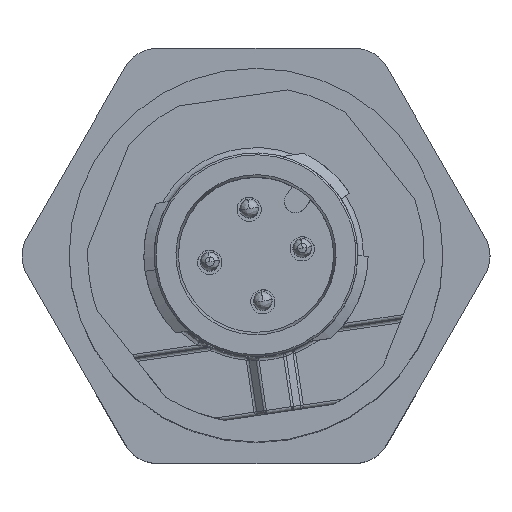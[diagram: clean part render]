
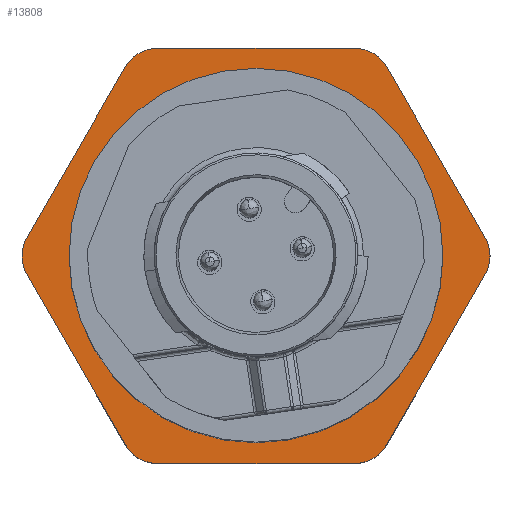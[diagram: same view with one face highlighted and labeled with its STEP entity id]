
A CAD part, top view. The second image highlights one B-rep face of the part: STEP entity #13808.
In plain terms, the highlighted planar face has unit normal (0, 0, 1).
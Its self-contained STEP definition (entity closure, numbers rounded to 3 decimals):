
#102 = EDGE_CURVE ( 'NONE', #706, #2347, #15973, .T. ) ;
#245 = LINE ( 'NONE', #5870, #1471 ) ;
#367 = CIRCLE ( 'NONE', #3452, 2. ) ;
#646 = VERTEX_POINT ( 'NONE', #9310 ) ;
#688 = ORIENTED_EDGE ( 'NONE', *, *, #8668, .T. ) ;
#706 = VERTEX_POINT ( 'NONE', #5307 ) ;
#777 = FACE_OUTER_BOUND ( 'NONE', #15439, .T. ) ;
#851 = ORIENTED_EDGE ( 'NONE', *, *, #3408, .F. ) ;
#871 = ORIENTED_EDGE ( 'NONE', *, *, #4243, .T. ) ;
#1186 = VERTEX_POINT ( 'NONE', #7806 ) ;
#1471 = VECTOR ( 'NONE', #3340, 1000. ) ;
#1588 = EDGE_CURVE ( 'NONE', #15198, #16648, #16622, .T. ) ;
#1591 = CARTESIAN_POINT ( 'NONE',  ( 5.26, 11.11, 93. ) ) ;
#1685 = ORIENTED_EDGE ( 'NONE', *, *, #3380, .T. ) ;
#1764 = CARTESIAN_POINT ( 'NONE',  ( -5.26, -11.11, 93. ) ) ;
#1838 = EDGE_CURVE ( 'NONE', #10801, #9705, #7152, .T. ) ;
#1964 = DIRECTION ( 'NONE',  ( -0.5, -0.866, 0. ) ) ;
#2113 = DIRECTION ( 'NONE',  ( 1., 0., 0. ) ) ;
#2134 = DIRECTION ( 'NONE',  ( 1., 0., 0. ) ) ;
#2196 = CARTESIAN_POINT ( 'NONE',  ( 6.414, -11.11, 93. ) ) ;
#2347 = VERTEX_POINT ( 'NONE', #1764 ) ;
#2362 = DIRECTION ( 'NONE',  ( 1., 0., 0. ) ) ;
#2417 = VERTEX_POINT ( 'NONE', #9879 ) ;
#2437 = CARTESIAN_POINT ( 'NONE',  ( -10., 0., 93. ) ) ;
#2469 = EDGE_CURVE ( 'NONE', #9705, #7438, #12090, .T. ) ;
#2501 = DIRECTION ( 'NONE',  ( 0., 0., 1. ) ) ;
#2974 = AXIS2_PLACEMENT_3D ( 'NONE', #4908, #11518, #16763 ) ;
#3066 = VECTOR ( 'NONE', #14283, 1000. ) ;
#3340 = DIRECTION ( 'NONE',  ( 1., 0., 0. ) ) ;
#3369 = EDGE_CURVE ( 'NONE', #13005, #4060, #15882, .T. ) ;
#3374 = CARTESIAN_POINT ( 'NONE',  ( -5.26, 9.11, 93. ) ) ;
#3380 = EDGE_CURVE ( 'NONE', #12445, #646, #5261, .T. ) ;
#3408 = EDGE_CURVE ( 'NONE', #4060, #13005, #14263, .T. ) ;
#3433 = CARTESIAN_POINT ( 'NONE',  ( -6.414, 11.11, 93. ) ) ;
#3452 = AXIS2_PLACEMENT_3D ( 'NONE', #3374, #9977, #2113 ) ;
#3599 = VERTEX_POINT ( 'NONE', #16353 ) ;
#3654 = CARTESIAN_POINT ( 'NONE',  ( 6.414, 11.11, 93. ) ) ;
#3873 = DIRECTION ( 'NONE',  ( -1., 0., 0. ) ) ;
#4060 = VERTEX_POINT ( 'NONE', #2437 ) ;
#4243 = EDGE_CURVE ( 'NONE', #16648, #1186, #13014, .T. ) ;
#4312 = ORIENTED_EDGE ( 'NONE', *, *, #13773, .T. ) ;
#4493 = CARTESIAN_POINT ( 'NONE',  ( -12.829, 0., 93. ) ) ;
#4536 = ORIENTED_EDGE ( 'NONE', *, *, #14504, .T. ) ;
#4908 = CARTESIAN_POINT ( 'NONE',  ( 10.519, 0., 93. ) ) ;
#5261 = LINE ( 'NONE', #2196, #7705 ) ;
#5307 = CARTESIAN_POINT ( 'NONE',  ( -6.992, -10.11, 93. ) ) ;
#5551 = CARTESIAN_POINT ( 'NONE',  ( -12.519, 0., 93. ) ) ;
#5870 = CARTESIAN_POINT ( 'NONE',  ( -6.414, -11.11, 93. ) ) ;
#5872 = CARTESIAN_POINT ( 'NONE',  ( -6.992, 10.11, 93. ) ) ;
#6145 = AXIS2_PLACEMENT_3D ( 'NONE', #16497, #13914, #10226 ) ;
#6267 = CARTESIAN_POINT ( 'NONE',  ( -5.26, -9.11, 93. ) ) ;
#6565 = AXIS2_PLACEMENT_3D ( 'NONE', #11972, #11801, #12032 ) ;
#6583 = EDGE_LOOP ( 'NONE', ( #8349, #851 ) ) ;
#6585 = ORIENTED_EDGE ( 'NONE', *, *, #11936, .T. ) ;
#6663 = CIRCLE ( 'NONE', #6565, 2. ) ;
#6786 = CARTESIAN_POINT ( 'NONE',  ( 12.251, 1., 93. ) ) ;
#6854 = VECTOR ( 'NONE', #3873, 1000. ) ;
#6979 = VERTEX_POINT ( 'NONE', #6786 ) ;
#7069 = DIRECTION ( 'NONE',  ( 0.5, -0.866, 0. ) ) ;
#7152 = LINE ( 'NONE', #3433, #9232 ) ;
#7438 = VERTEX_POINT ( 'NONE', #5551 ) ;
#7705 = VECTOR ( 'NONE', #12694, 1000. ) ;
#7719 = DIRECTION ( 'NONE',  ( 1., 0., 0. ) ) ;
#7806 = CARTESIAN_POINT ( 'NONE',  ( -5.26, 11.11, 93. ) ) ;
#7962 = AXIS2_PLACEMENT_3D ( 'NONE', #9253, #2501, #11691 ) ;
#8245 = ORIENTED_EDGE ( 'NONE', *, *, #16037, .T. ) ;
#8349 = ORIENTED_EDGE ( 'NONE', *, *, #3369, .F. ) ;
#8590 = CARTESIAN_POINT ( 'NONE',  ( 6.992, 10.11, 93. ) ) ;
#8668 = EDGE_CURVE ( 'NONE', #2417, #12445, #6663, .T. ) ;
#8795 = CARTESIAN_POINT ( 'NONE',  ( 10., 0., 93. ) ) ;
#8878 = DIRECTION ( 'NONE',  ( 0., 0., 1. ) ) ;
#8899 = CARTESIAN_POINT ( 'NONE',  ( 5.26, 9.11, 93. ) ) ;
#9017 = DIRECTION ( 'NONE',  ( 0., 0., 1. ) ) ;
#9232 = VECTOR ( 'NONE', #1964, 1000. ) ;
#9253 = CARTESIAN_POINT ( 'NONE',  ( -10.519, 0., 93. ) ) ;
#9310 = CARTESIAN_POINT ( 'NONE',  ( 12.251, -1., 93. ) ) ;
#9421 = VECTOR ( 'NONE', #7069, 1000. ) ;
#9705 = VERTEX_POINT ( 'NONE', #10700 ) ;
#9793 = ORIENTED_EDGE ( 'NONE', *, *, #2469, .T. ) ;
#9879 = CARTESIAN_POINT ( 'NONE',  ( 5.26, -11.11, 93. ) ) ;
#9977 = DIRECTION ( 'NONE',  ( 0., 0., 1. ) ) ;
#10063 = CARTESIAN_POINT ( 'NONE',  ( 6.992, -10.11, 93. ) ) ;
#10143 = AXIS2_PLACEMENT_3D ( 'NONE', #11482, #8878, #2362 ) ;
#10226 = DIRECTION ( 'NONE',  ( 1., 0., 0. ) ) ;
#10308 = DIRECTION ( 'NONE',  ( 1., 0., 0. ) ) ;
#10700 = CARTESIAN_POINT ( 'NONE',  ( -12.251, 1., 93. ) ) ;
#10801 = VERTEX_POINT ( 'NONE', #5872 ) ;
#10935 = ORIENTED_EDGE ( 'NONE', *, *, #1838, .T. ) ;
#11153 = ORIENTED_EDGE ( 'NONE', *, *, #12833, .T. ) ;
#11482 = CARTESIAN_POINT ( 'NONE',  ( 0., 0., 93. ) ) ;
#11518 = DIRECTION ( 'NONE',  ( 0., 0., 1. ) ) ;
#11526 = DIRECTION ( 'NONE',  ( 0., 0., 1. ) ) ;
#11683 = DIRECTION ( 'NONE',  ( 0., 0., 1. ) ) ;
#11691 = DIRECTION ( 'NONE',  ( 1., 0., 0. ) ) ;
#11801 = DIRECTION ( 'NONE',  ( 0., 0., 1. ) ) ;
#11936 = EDGE_CURVE ( 'NONE', #646, #6979, #12955, .T. ) ;
#11972 = CARTESIAN_POINT ( 'NONE',  ( 5.26, -9.11, 93. ) ) ;
#12032 = DIRECTION ( 'NONE',  ( 1., 0., 0. ) ) ;
#12090 = CIRCLE ( 'NONE', #14780, 2. ) ;
#12104 = LINE ( 'NONE', #15474, #3066 ) ;
#12172 = EDGE_CURVE ( 'NONE', #2347, #2417, #245, .T. ) ;
#12445 = VERTEX_POINT ( 'NONE', #10063 ) ;
#12449 = PLANE ( 'NONE',  #16270 ) ;
#12510 = CARTESIAN_POINT ( 'NONE',  ( 0., 0., 93. ) ) ;
#12694 = DIRECTION ( 'NONE',  ( 0.5, 0.866, 0. ) ) ;
#12833 = EDGE_CURVE ( 'NONE', #3599, #706, #13102, .T. ) ;
#12955 = CIRCLE ( 'NONE', #2974, 2. ) ;
#13005 = VERTEX_POINT ( 'NONE', #8795 ) ;
#13014 = LINE ( 'NONE', #3654, #6854 ) ;
#13041 = CIRCLE ( 'NONE', #7962, 2. ) ;
#13102 = LINE ( 'NONE', #4493, #9421 ) ;
#13660 = FACE_BOUND ( 'NONE', #6583, .T. ) ;
#13773 = EDGE_CURVE ( 'NONE', #1186, #10801, #367, .T. ) ;
#13808 = ADVANCED_FACE ( 'NONE', ( #13660, #777 ), #12449, .T. ) ;
#13914 = DIRECTION ( 'NONE',  ( 0., 0., 1. ) ) ;
#13988 = ORIENTED_EDGE ( 'NONE', *, *, #1588, .T. ) ;
#14222 = ORIENTED_EDGE ( 'NONE', *, *, #12172, .T. ) ;
#14263 = CIRCLE ( 'NONE', #10143, 10. ) ;
#14283 = DIRECTION ( 'NONE',  ( -0.5, 0.866, 0. ) ) ;
#14504 = EDGE_CURVE ( 'NONE', #6979, #15198, #12104, .T. ) ;
#14780 = AXIS2_PLACEMENT_3D ( 'NONE', #15281, #15221, #2134 ) ;
#14986 = AXIS2_PLACEMENT_3D ( 'NONE', #8899, #9017, #10308 ) ;
#15198 = VERTEX_POINT ( 'NONE', #8590 ) ;
#15221 = DIRECTION ( 'NONE',  ( 0., 0., 1. ) ) ;
#15281 = CARTESIAN_POINT ( 'NONE',  ( -10.519, 0., 93. ) ) ;
#15359 = DIRECTION ( 'NONE',  ( 1., 0., 0. ) ) ;
#15439 = EDGE_LOOP ( 'NONE', ( #14222, #688, #1685, #6585, #4536, #13988, #871, #4312, #10935, #9793, #8245, #11153, #16305 ) ) ;
#15474 = CARTESIAN_POINT ( 'NONE',  ( 12.829, 0., 93. ) ) ;
#15526 = AXIS2_PLACEMENT_3D ( 'NONE', #6267, #11683, #15359 ) ;
#15882 = CIRCLE ( 'NONE', #6145, 10. ) ;
#15973 = CIRCLE ( 'NONE', #15526, 2. ) ;
#16037 = EDGE_CURVE ( 'NONE', #7438, #3599, #13041, .T. ) ;
#16270 = AXIS2_PLACEMENT_3D ( 'NONE', #12510, #11526, #7719 ) ;
#16305 = ORIENTED_EDGE ( 'NONE', *, *, #102, .T. ) ;
#16353 = CARTESIAN_POINT ( 'NONE',  ( -12.251, -1., 93. ) ) ;
#16497 = CARTESIAN_POINT ( 'NONE',  ( 0., 0., 93. ) ) ;
#16622 = CIRCLE ( 'NONE', #14986, 2. ) ;
#16648 = VERTEX_POINT ( 'NONE', #1591 ) ;
#16763 = DIRECTION ( 'NONE',  ( 1., 0., 0. ) ) ;
